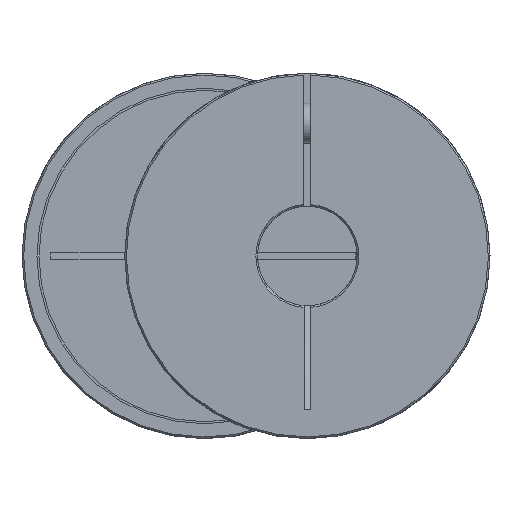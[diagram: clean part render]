
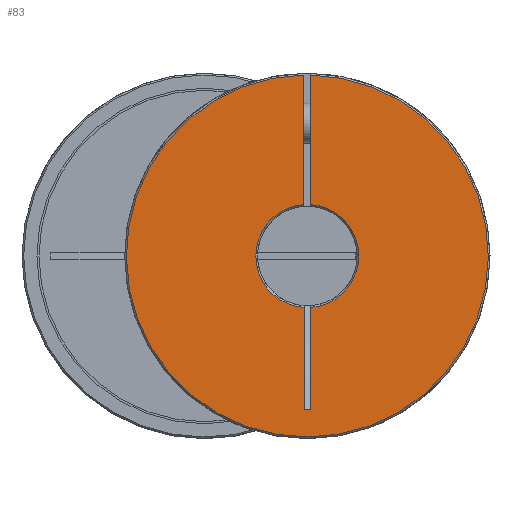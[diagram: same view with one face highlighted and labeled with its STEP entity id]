
A CAD part, left-side view. The second image highlights one B-rep face of the part: STEP entity #83.
In plain terms, the highlighted planar face has unit normal (-1, 0, 0).
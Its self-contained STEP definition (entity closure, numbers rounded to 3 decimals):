
#83 = ADVANCED_FACE( 'NONE', ( #161 ), #162, .F. );
#161 = FACE_OUTER_BOUND( '', #258, .T. );
#162 = PLANE( '', #259 );
#258 = EDGE_LOOP( '', ( #443, #444, #445, #446, #447, #448, #449, #450 ) );
#259 = AXIS2_PLACEMENT_3D( '', #451, #452, #453 );
#443 = ORIENTED_EDGE( '', *, *, #800, .T. );
#444 = ORIENTED_EDGE( '', *, *, #801, .T. );
#445 = ORIENTED_EDGE( '', *, *, #802, .T. );
#446 = ORIENTED_EDGE( '', *, *, #803, .T. );
#447 = ORIENTED_EDGE( '', *, *, #804, .F. );
#448 = ORIENTED_EDGE( '', *, *, #789, .T. );
#449 = ORIENTED_EDGE( '', *, *, #805, .F. );
#450 = ORIENTED_EDGE( '', *, *, #783, .T. );
#451 = CARTESIAN_POINT( '', ( 0., 15., 0. ) );
#452 = DIRECTION( '', ( 1., 0., 0. ) );
#453 = DIRECTION( '', ( 0., 1., 0. ) );
#783 = EDGE_CURVE( 'NONE', #1056, #1060, #1062, .T. );
#789 = EDGE_CURVE( 'NONE', #1072, #1069, #1073, .T. );
#800 = EDGE_CURVE( 'NONE', #1060, #1089, #1090, .T. );
#801 = EDGE_CURVE( 'NONE', #1089, #1091, #1092, .T. );
#802 = EDGE_CURVE( 'NONE', #1091, #1093, #1094, .T. );
#803 = EDGE_CURVE( 'NONE', #1093, #1095, #1096, .F. );
#804 = EDGE_CURVE( 'NONE', #1072, #1095, #1097, .F. );
#805 = EDGE_CURVE( 'NONE', #1056, #1069, #1098, .F. );
#1056 = VERTEX_POINT( 'NONE', #1553 );
#1060 = VERTEX_POINT( 'NONE', #1560 );
#1062 = LINE( '', #1562, #1563 );
#1069 = VERTEX_POINT( 'NONE', #1651 );
#1072 = VERTEX_POINT( 'NONE', #1657 );
#1073 = CIRCLE( '', #1658, 15.5 );
#1089 = VERTEX_POINT( 'NONE', #1679 );
#1090 = LINE( '', #1680, #1681 );
#1091 = VERTEX_POINT( 'NONE', #1682 );
#1092 = CIRCLE( '', #1683, 15.5 );
#1093 = VERTEX_POINT( 'NONE', #1684 );
#1094 = LINE( '', #1685, #1686 );
#1095 = VERTEX_POINT( 'NONE', #1687 );
#1096 = CIRCLE( '', #1688, 54.5 );
#1097 = LINE( '', #1689, #1690 );
#1098 = LINE( '', #1691, #1692 );
#1553 = CARTESIAN_POINT( '', ( 0., 46.303, -1. ) );
#1560 = CARTESIAN_POINT( '', ( 0., 46.303, 1. ) );
#1562 = CARTESIAN_POINT( '', ( 0., 46.303, -1. ) );
#1563 = VECTOR( '', #1957, 1000. );
#1651 = CARTESIAN_POINT( '', ( 0., 15.468, -1. ) );
#1657 = CARTESIAN_POINT( '', ( 0., -15.468, -1. ) );
#1658 = AXIS2_PLACEMENT_3D( '', #1961, #1962, #1963 );
#1679 = CARTESIAN_POINT( '', ( 0., 15.468, 1. ) );
#1680 = CARTESIAN_POINT( '', ( 0., 15., 1. ) );
#1681 = VECTOR( '', #1978, 1000. );
#1682 = CARTESIAN_POINT( '', ( 0., -15.468, 1. ) );
#1683 = AXIS2_PLACEMENT_3D( '', #1979, #1980, #1981 );
#1684 = CARTESIAN_POINT( '', ( 0., -54.491, 1. ) );
#1685 = CARTESIAN_POINT( '', ( 0., 15., 1. ) );
#1686 = VECTOR( '', #1982, 1000. );
#1687 = CARTESIAN_POINT( '', ( 0., -54.491, -1. ) );
#1688 = AXIS2_PLACEMENT_3D( '', #1983, #1984, #1985 );
#1689 = CARTESIAN_POINT( '', ( 0., -15., -1. ) );
#1690 = VECTOR( '', #1986, 1000. );
#1691 = CARTESIAN_POINT( '', ( 0., -15., -1. ) );
#1692 = VECTOR( '', #1987, 1000. );
#1957 = DIRECTION( '', ( 0., 0., 1. ) );
#1961 = CARTESIAN_POINT( '', ( 0., 0., 0. ) );
#1962 = DIRECTION( '', ( 1., 0., 0. ) );
#1963 = DIRECTION( '', ( 0., 0., -1. ) );
#1978 = DIRECTION( '', ( 0., -1., 0. ) );
#1979 = CARTESIAN_POINT( '', ( 0., 0., 0. ) );
#1980 = DIRECTION( '', ( 1., 0., 0. ) );
#1981 = DIRECTION( '', ( 0., 0., -1. ) );
#1982 = DIRECTION( '', ( 0., -1., 0. ) );
#1983 = CARTESIAN_POINT( '', ( 0., 0., 0. ) );
#1984 = DIRECTION( '', ( 1., 0., 0. ) );
#1985 = DIRECTION( '', ( 0., 0., -1. ) );
#1986 = DIRECTION( '', ( 0., 1., 0. ) );
#1987 = DIRECTION( '', ( 0., 1., 0. ) );
